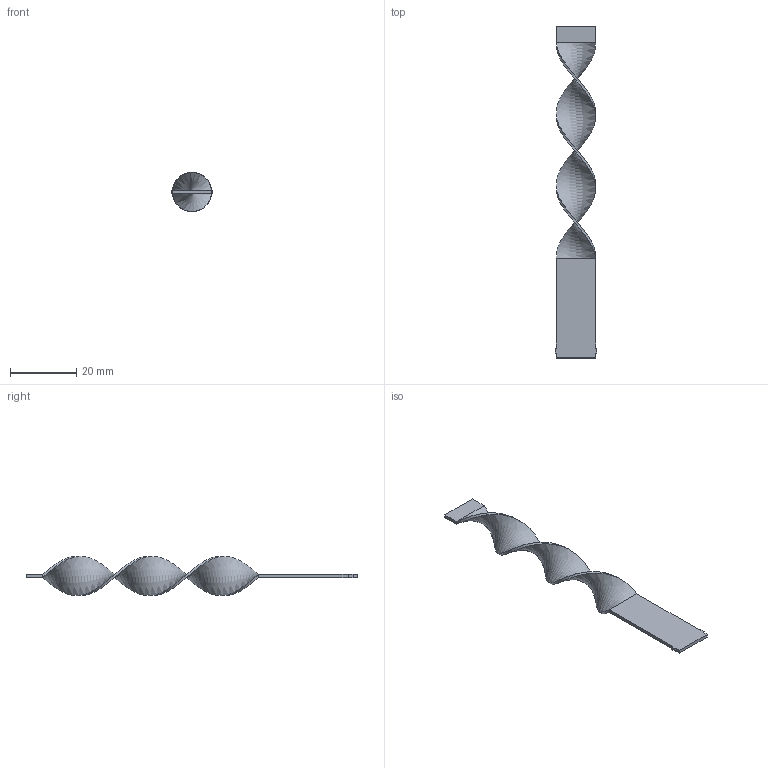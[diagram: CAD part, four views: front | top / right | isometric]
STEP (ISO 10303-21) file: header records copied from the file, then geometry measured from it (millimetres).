
FILE_DESCRIPTION (( 'STEP AP203' ), '1' );
FILE_NAME ('RLAS-12SMx100.STEP', '2015-12-10T14:03:36', ( 'Balzi' ), ( '' ), 'SwSTEP 2.0', 'SolidWorks 2015', '' );
FILE_SCHEMA (( 'CONFIG_CONTROL_DESIGN' ));
Length unit declared in the file: millimetre
Products named in the file (1): RLAS-12SMx100
Bounding box: 12.4 x 100 x 11.8 mm (x, y, z)
Volume: 1181.4 mm3; surface area: 2758.7 mm2
Topology: 1 solids, 1 shells, 22 faces, 52 edges, 32 vertices
Faces by surface type: plane 18, bspline 4
Entity records: 1605 total; most frequent: CARTESIAN_POINT 1059, ORIENTED_EDGE 104, DIRECTION 82, EDGE_CURVE 52, LINE 44, VECTOR 44, VERTEX_POINT 32, FACE_OUTER_BOUND 22
